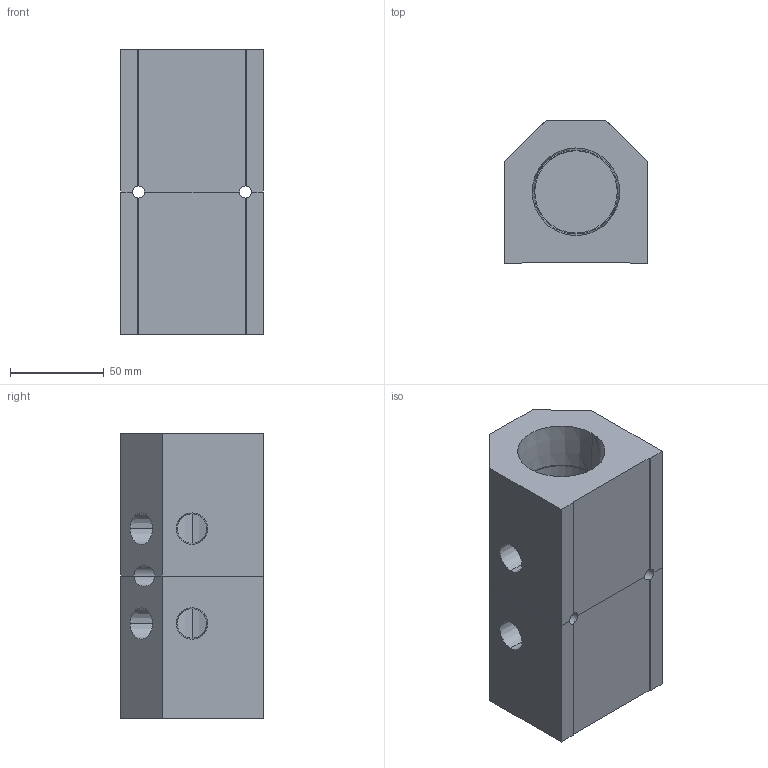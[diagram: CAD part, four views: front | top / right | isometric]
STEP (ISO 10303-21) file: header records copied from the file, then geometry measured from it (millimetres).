
FILE_DESCRIPTION (( 'STEP AP214' ), '1' );
FILE_NAME ('ALM2AB-N6N24-152RB.step', '2022-02-07T09:15:45', ( '' ), ( '' ), 'SwSTEP 2.0', 'SolidWorks 2020', '' );
FILE_SCHEMA (( 'AUTOMOTIVE_DESIGN' ));
Length unit declared in the file: millimetre
Products named in the file (1): ALM2AB-N6N24-152RB
Bounding box: 76.2 x 76.2 x 152 mm (x, y, z)
Volume: 549645.8 mm3; surface area: 87061.5 mm2
Topology: 2 solids, 2 shells, 335 faces, 882 edges, 586 vertices
Faces by surface type: plane 244, bspline 63, cylinder 16, cone 12
Entity records: 17619 total; most frequent: CARTESIAN_POINT 6685, ORIENTED_EDGE 1764, DIRECTION 1328, EDGE_CURVE 882, VECTOR 694, LINE 694, VERTEX_POINT 586, EDGE_LOOP 378
